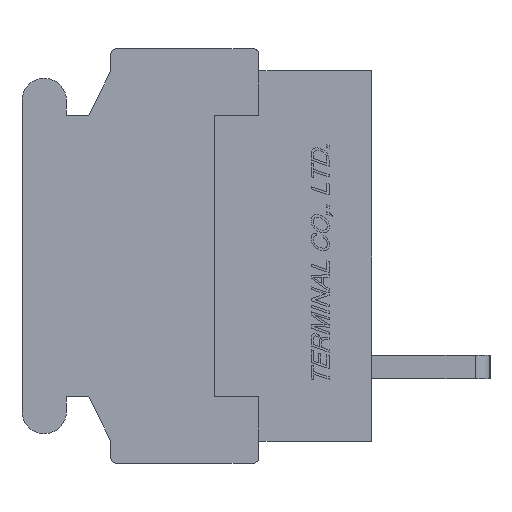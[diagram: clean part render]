
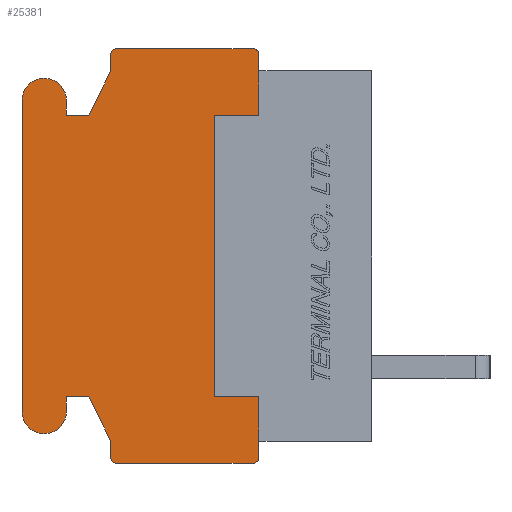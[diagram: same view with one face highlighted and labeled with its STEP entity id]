
A CAD part, left-side view. The second image highlights one B-rep face of the part: STEP entity #25381.
In plain terms, the highlighted planar face has unit normal (-1, 0, 0).
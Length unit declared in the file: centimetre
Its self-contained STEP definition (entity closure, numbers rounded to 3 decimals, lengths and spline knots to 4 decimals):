
#1346=CIRCLE('',#43056,0.02);
#1347=CIRCLE('',#43060,0.02);
#1348=CIRCLE('',#43063,0.02);
#1349=CIRCLE('',#43069,0.075);
#1350=CIRCLE('',#43072,0.075);
#1351=CIRCLE('',#43078,0.02);
#3537=VERTEX_POINT('',#39821);
#3538=VERTEX_POINT('',#39823);
#3539=VERTEX_POINT('',#39827);
#3540=VERTEX_POINT('',#39831);
#3541=VERTEX_POINT('',#39833);
#3542=VERTEX_POINT('',#39837);
#3543=VERTEX_POINT('',#39841);
#3544=VERTEX_POINT('',#39845);
#3545=VERTEX_POINT('',#39849);
#3546=VERTEX_POINT('',#39853);
#3547=VERTEX_POINT('',#39857);
#3548=VERTEX_POINT('',#39861);
#3549=VERTEX_POINT('',#39865);
#3550=VERTEX_POINT('',#39869);
#3551=VERTEX_POINT('',#39873);
#3552=VERTEX_POINT('',#39877);
#3553=VERTEX_POINT('',#39881);
#3554=VERTEX_POINT('',#39885);
#3555=VERTEX_POINT('',#39889);
#3556=VERTEX_POINT('',#39893);
#3557=VERTEX_POINT('',#39899);
#3558=VERTEX_POINT('',#39901);
#3559=VERTEX_POINT('',#39903);
#3560=VERTEX_POINT('',#39905);
#6259=VECTOR('',#31383,1.);
#6261=VECTOR('',#31386,1.);
#6265=VECTOR('',#31395,1.);
#6268=VECTOR('',#31403,1.);
#6270=VECTOR('',#31406,1.);
#6272=VECTOR('',#31409,1.);
#6274=VECTOR('',#31412,1.);
#6277=VECTOR('',#31420,1.);
#6280=VECTOR('',#31428,1.);
#6282=VECTOR('',#31431,1.);
#6284=VECTOR('',#31434,1.);
#6286=VECTOR('',#31437,1.);
#6288=VECTOR('',#31444,1.);
#6289=VECTOR('',#31446,1.);
#6290=VECTOR('',#31447,1.);
#6291=VECTOR('',#31448,1.);
#6292=VECTOR('',#31449,1.);
#6293=VECTOR('',#31450,1.);
#9059=LINE('',#39828,#6259);
#9061=LINE('',#39832,#6261);
#9065=LINE('',#39842,#6265);
#9068=LINE('',#39850,#6268);
#9070=LINE('',#39854,#6270);
#9072=LINE('',#39858,#6272);
#9074=LINE('',#39862,#6274);
#9077=LINE('',#39870,#6277);
#9080=LINE('',#39878,#6280);
#9082=LINE('',#39882,#6282);
#9084=LINE('',#39886,#6284);
#9086=LINE('',#39890,#6286);
#9088=LINE('',#39896,#6288);
#9089=LINE('',#39898,#6289);
#9090=LINE('',#39900,#6290);
#9091=LINE('',#39902,#6291);
#9092=LINE('',#39904,#6292);
#9093=LINE('',#39906,#6293);
#12804=EDGE_CURVE('',#3537,#3538,#1346,.T.);
#12807=EDGE_CURVE('',#3539,#3537,#9059,.T.);
#12809=EDGE_CURVE('',#3540,#3541,#9061,.T.);
#12812=EDGE_CURVE('',#3542,#3540,#1347,.T.);
#12814=EDGE_CURVE('',#3543,#3542,#9065,.T.);
#12816=EDGE_CURVE('',#3544,#3543,#1348,.T.);
#12818=EDGE_CURVE('',#3545,#3544,#9068,.T.);
#12820=EDGE_CURVE('',#3546,#3545,#9070,.T.);
#12822=EDGE_CURVE('',#3547,#3546,#9072,.T.);
#12824=EDGE_CURVE('',#3548,#3547,#9074,.T.);
#12826=EDGE_CURVE('',#3549,#3548,#1349,.T.);
#12828=EDGE_CURVE('',#3550,#3549,#9077,.T.);
#12830=EDGE_CURVE('',#3551,#3550,#1350,.T.);
#12832=EDGE_CURVE('',#3552,#3551,#9080,.T.);
#12834=EDGE_CURVE('',#3553,#3552,#9082,.T.);
#12836=EDGE_CURVE('',#3554,#3553,#9084,.T.);
#12838=EDGE_CURVE('',#3555,#3554,#9086,.T.);
#12840=EDGE_CURVE('',#3556,#3555,#1351,.T.);
#12841=EDGE_CURVE('',#3538,#3556,#9088,.T.);
#12842=EDGE_CURVE('',#3557,#3541,#9089,.T.);
#12843=EDGE_CURVE('',#3539,#3558,#9090,.T.);
#12844=EDGE_CURVE('',#3558,#3559,#9091,.T.);
#12845=EDGE_CURVE('',#3559,#3560,#9092,.T.);
#12846=EDGE_CURVE('',#3560,#3557,#9093,.T.);
#19948=ORIENTED_EDGE('',*,*,#12842,.T.);
#19949=ORIENTED_EDGE('',*,*,#12809,.F.);
#19950=ORIENTED_EDGE('',*,*,#12812,.F.);
#19951=ORIENTED_EDGE('',*,*,#12814,.F.);
#19952=ORIENTED_EDGE('',*,*,#12816,.F.);
#19953=ORIENTED_EDGE('',*,*,#12818,.F.);
#19954=ORIENTED_EDGE('',*,*,#12820,.F.);
#19955=ORIENTED_EDGE('',*,*,#12822,.F.);
#19956=ORIENTED_EDGE('',*,*,#12824,.F.);
#19957=ORIENTED_EDGE('',*,*,#12826,.F.);
#19958=ORIENTED_EDGE('',*,*,#12828,.F.);
#19959=ORIENTED_EDGE('',*,*,#12830,.F.);
#19960=ORIENTED_EDGE('',*,*,#12832,.F.);
#19961=ORIENTED_EDGE('',*,*,#12834,.F.);
#19962=ORIENTED_EDGE('',*,*,#12836,.F.);
#19963=ORIENTED_EDGE('',*,*,#12838,.F.);
#19964=ORIENTED_EDGE('',*,*,#12840,.F.);
#19965=ORIENTED_EDGE('',*,*,#12841,.F.);
#19966=ORIENTED_EDGE('',*,*,#12804,.F.);
#19967=ORIENTED_EDGE('',*,*,#12807,.F.);
#19968=ORIENTED_EDGE('',*,*,#12843,.T.);
#19969=ORIENTED_EDGE('',*,*,#12844,.T.);
#19970=ORIENTED_EDGE('',*,*,#12845,.T.);
#19971=ORIENTED_EDGE('',*,*,#12846,.T.);
#22384=EDGE_LOOP('',(#19948,#19949,#19950,#19951,#19952,#19953,#19954,#19955,
#19956,#19957,#19958,#19959,#19960,#19961,#19962,#19963,#19964,#19965,#19966,
#19967,#19968,#19969,#19970,#19971));
#23924=FACE_BOUND('',#22384,.T.);
#25381=ADVANCED_FACE('',(#23924),#26432,.F.);
#26432=PLANE('',#43080);
#31378=DIRECTION('',(1.,0.,0.));
#31379=DIRECTION('',(0.,0.,-0.02));
#31383=DIRECTION('',(0.,0.,-1.));
#31386=DIRECTION('',(0.,0.,-1.));
#31391=DIRECTION('',(1.,0.,0.));
#31392=DIRECTION('',(0.,0.,-0.02));
#31395=DIRECTION('',(0.,-1.,0.));
#31399=DIRECTION('',(1.,0.,0.));
#31400=DIRECTION('',(0.,0.,-0.02));
#31403=DIRECTION('',(0.,0.,1.));
#31406=DIRECTION('',(0.,-0.447,0.894));
#31409=DIRECTION('',(0.,-1.,0.));
#31412=DIRECTION('',(0.,0.,-1.));
#31416=DIRECTION('',(1.,0.,0.));
#31417=DIRECTION('',(0.,0.,-0.075));
#31420=DIRECTION('',(0.,0.,1.));
#31424=DIRECTION('',(1.,0.,0.));
#31425=DIRECTION('',(0.,0.,-0.075));
#31428=DIRECTION('',(0.,0.,-1.));
#31431=DIRECTION('',(0.,1.,0.));
#31434=DIRECTION('',(0.,0.447,0.894));
#31437=DIRECTION('',(0.,0.,1.));
#31441=DIRECTION('',(1.,0.,0.));
#31442=DIRECTION('',(0.,0.,-0.02));
#31444=DIRECTION('',(0.,1.,0.));
#31445=DIRECTION('',(1.,0.,0.));
#31446=DIRECTION('',(0.,0.,1.));
#31447=DIRECTION('',(0.,0.,1.));
#31448=DIRECTION('',(0.,1.,0.));
#31449=DIRECTION('',(0.,0.,1.));
#31450=DIRECTION('',(0.,-1.,0.));
#39821=CARTESIAN_POINT('',(-0.762,0.38,-0.68));
#39822=CARTESIAN_POINT('',(-0.762,0.4,-0.68));
#39823=CARTESIAN_POINT('',(-0.762,0.4,-0.7));
#39827=CARTESIAN_POINT('',(-0.762,0.38,-0.625));
#39828=CARTESIAN_POINT('',(-0.762,0.38,-0.625));
#39831=CARTESIAN_POINT('',(-0.762,0.38,0.68));
#39832=CARTESIAN_POINT('',(-0.762,0.38,0.68));
#39833=CARTESIAN_POINT('',(-0.762,0.38,0.625));
#39837=CARTESIAN_POINT('',(-0.762,0.4,0.7));
#39838=CARTESIAN_POINT('',(-0.762,0.4,0.68));
#39841=CARTESIAN_POINT('',(-0.762,0.86,0.7));
#39842=CARTESIAN_POINT('',(-0.762,0.86,0.7));
#39845=CARTESIAN_POINT('',(-0.762,0.88,0.68));
#39846=CARTESIAN_POINT('',(-0.762,0.86,0.68));
#39849=CARTESIAN_POINT('',(-0.762,0.88,0.625));
#39850=CARTESIAN_POINT('',(-0.762,0.88,0.625));
#39853=CARTESIAN_POINT('',(-0.762,0.955,0.475));
#39854=CARTESIAN_POINT('',(-0.762,0.955,0.475));
#39857=CARTESIAN_POINT('',(-0.762,1.03,0.475));
#39858=CARTESIAN_POINT('',(-0.762,1.03,0.475));
#39861=CARTESIAN_POINT('',(-0.762,1.03,0.525));
#39862=CARTESIAN_POINT('',(-0.762,1.03,0.525));
#39865=CARTESIAN_POINT('',(-0.762,1.18,0.525));
#39866=CARTESIAN_POINT('',(-0.762,1.105,0.525));
#39869=CARTESIAN_POINT('',(-0.762,1.18,-0.525));
#39870=CARTESIAN_POINT('',(-0.762,1.18,-0.525));
#39873=CARTESIAN_POINT('',(-0.762,1.03,-0.525));
#39874=CARTESIAN_POINT('',(-0.762,1.105,-0.525));
#39877=CARTESIAN_POINT('',(-0.762,1.03,-0.475));
#39878=CARTESIAN_POINT('',(-0.762,1.03,-0.475));
#39881=CARTESIAN_POINT('',(-0.762,0.955,-0.475));
#39882=CARTESIAN_POINT('',(-0.762,0.955,-0.475));
#39885=CARTESIAN_POINT('',(-0.762,0.88,-0.625));
#39886=CARTESIAN_POINT('',(-0.762,0.88,-0.625));
#39889=CARTESIAN_POINT('',(-0.762,0.88,-0.68));
#39890=CARTESIAN_POINT('',(-0.762,0.88,-0.68));
#39893=CARTESIAN_POINT('',(-0.762,0.86,-0.7));
#39894=CARTESIAN_POINT('',(-0.762,0.86,-0.68));
#39896=CARTESIAN_POINT('',(-0.762,0.4,-0.7));
#39897=CARTESIAN_POINT('',(-0.762,0.6059,0.));
#39898=CARTESIAN_POINT('',(-0.762,0.38,0.475));
#39899=CARTESIAN_POINT('',(-0.762,0.38,0.475));
#39900=CARTESIAN_POINT('',(-0.762,0.38,-0.625));
#39901=CARTESIAN_POINT('',(-0.762,0.38,-0.475));
#39902=CARTESIAN_POINT('',(-0.762,0.38,-0.475));
#39903=CARTESIAN_POINT('',(-0.762,0.53,-0.475));
#39904=CARTESIAN_POINT('',(-0.762,0.53,-0.475));
#39905=CARTESIAN_POINT('',(-0.762,0.53,0.475));
#39906=CARTESIAN_POINT('',(-0.762,0.53,0.475));
#43056=AXIS2_PLACEMENT_3D('',#39822,#31378,#31379);
#43060=AXIS2_PLACEMENT_3D('',#39838,#31391,#31392);
#43063=AXIS2_PLACEMENT_3D('',#39846,#31399,#31400);
#43069=AXIS2_PLACEMENT_3D('',#39866,#31416,#31417);
#43072=AXIS2_PLACEMENT_3D('',#39874,#31424,#31425);
#43078=AXIS2_PLACEMENT_3D('',#39894,#31441,#31442);
#43080=AXIS2_PLACEMENT_3D('',#39897,#31445,$);
